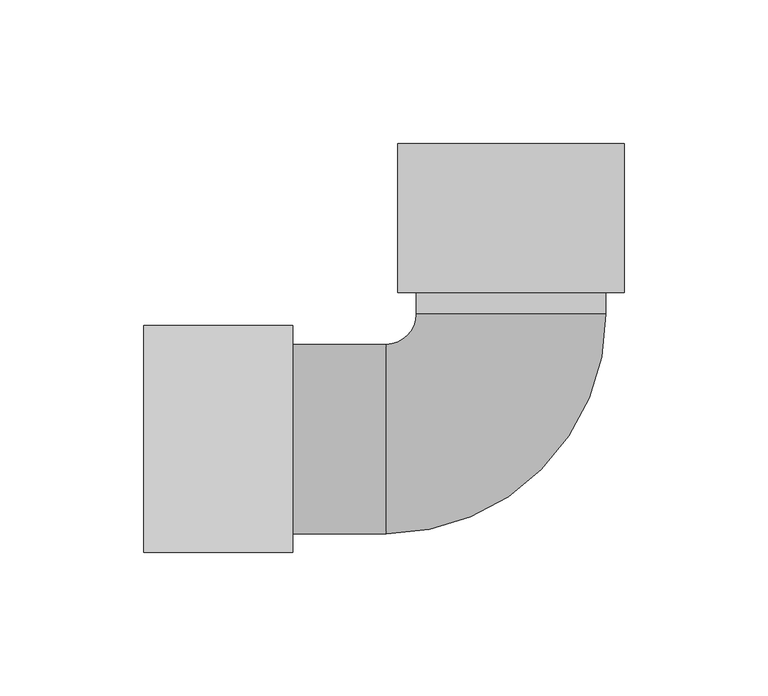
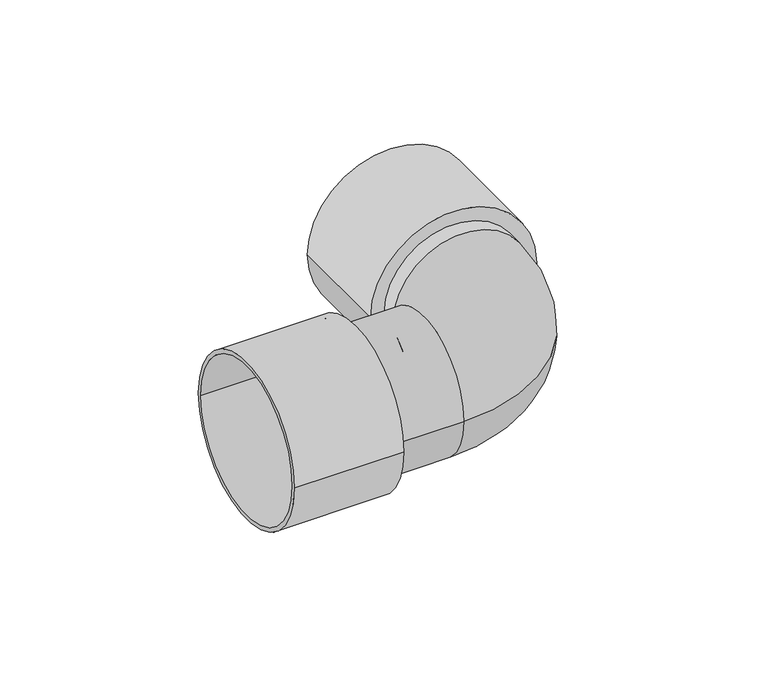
"""IFC4 building model written with IfcOpenShell, lengths in millimetres: duct fitting geometry, NLRS_57_DUF_UN_bend round_M&G : ø75 ø92."""

from ifc_helpers import new_model, si_unit, point, frame, origin, place, context, project, spatial, polyline, circle_curve, ellipse_curve, trimmed, source, transform, mapped, element, save
from ifc_brep_helpers import plane_surface, cylinder_surface, revolved_surface, advanced_brep


def duct_fitting_6423f03c(model_context):
    return source(origin(), model_context, "Body", "AdvancedBrep", [
        advanced_brep(
        [(33.0, 43.5, 0.0), (-43.5, -33.0, 0.0), (-43.5, 33.0, 0.0), (-33.0, 43.5, 0.0), (-76.0, 33.0, 0.0), (-76.0, -33.0, 0.0), (33.0, 51.0, 0.0), (-33.0, 51.0, 0.0), (-76.0, 39.5, 0.0), (-76.0, -39.5, 0.0), (-128.0, 39.5, 0.0), (-128.0, -39.5, 0.0), (-128.0, 37.5, 0.0), (-128.0, -37.5, 0.0), (39.5, 51.0, 0.0), (-39.5, 51.0, 0.0), (39.5, 103.0, 0.0), (-39.5, 103.0, 0.0), (37.5, 103.0, 0.0), (-37.5, 103.0, 0.0), (-78.0, -37.5, 0.0), (-78.0, 37.5, 0.0), (37.5, 53.0, 0.0), (-37.5, 53.0, 0.0)],
        [
            (0, 1, circle_curve(frame((-43.5, 43.5, 0.0), z_axis=(0.0, 0.0, -1.0), x_axis=(0.0, -1.0, 0.0)), 76.5)),
            (1, 2, circle_curve(frame((-43.5, 0.0, 0.0), z_axis=(1.0, 0.0, 0.0), x_axis=(0.0, 1.0, 0.0)), 33.0)),
            (2, 3, circle_curve(frame((-43.5, 43.5, 0.0), z_axis=(0.0, 0.0, 1.0), x_axis=(0.0, -1.0, 0.0)), 10.5)),
            (3, 0, circle_curve(frame((0.0, 43.5, 0.0), z_axis=(1.7352785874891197e-12, -1.0, 0.0), x_axis=(-1.0, -1.7352785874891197e-12, 0.0)), 33.0)),
            (0, 3, circle_curve(frame((0.0, 43.5, 0.0), z_axis=(1.7359447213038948e-12, -1.0, 0.0), x_axis=(-1.0, -1.7359447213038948e-12, 0.0)), 33.0)),
            (2, 1, circle_curve(frame((-43.5, 0.0, 0.0), z_axis=(1.0, 0.0, 0.0), x_axis=(0.0, 1.0, 0.0)), 33.0)),
            (2, 4),
            (4, 5, circle_curve(frame((-76.0, 0.0, 0.0), z_axis=(1.0, 0.0, 0.0), x_axis=(0.0, 1.0, 0.0)), 33.0)),
            (5, 1),
            (5, 4, circle_curve(frame((-76.0, 0.0, 0.0), z_axis=(1.0, 0.0, 0.0), x_axis=(0.0, 1.0, 0.0)), 33.0)),
            (0, 6),
            (6, 7, circle_curve(frame((0.0, 51.0, 0.0), z_axis=(0.0, -1.0, 0.0), x_axis=(-1.0, 0.0, 0.0)), 33.0)),
            (7, 3),
            (7, 6, circle_curve(frame((0.0, 51.0, 0.0), z_axis=(0.0, -1.0, 0.0), x_axis=(-1.0, 0.0, 0.0)), 33.0)),
            (8, 9, circle_curve(frame((-76.0, 0.0, 0.0), z_axis=(1.0, 0.0, 0.0), x_axis=(0.0, -1.0, 0.0)), 39.5)),
            (9, 8, circle_curve(frame((-76.0, 0.0, 0.0), z_axis=(1.0, 0.0, 0.0), x_axis=(0.0, -1.0, 0.0)), 39.5)),
            (10, 11, circle_curve(frame((-128.0, 0.0, 0.0), z_axis=(-1.0, 0.0, 0.0), x_axis=(0.0, -1.0, 0.0)), 39.5)),
            (11, 10, circle_curve(frame((-128.0, 0.0, 0.0), z_axis=(-1.0, 0.0, 0.0), x_axis=(0.0, -1.0, 0.0)), 39.5)),
            (12, 13, circle_curve(frame((-128.0, 0.0, 0.0), z_axis=(1.0, 0.0, 0.0), x_axis=(0.0, 1.0, 0.0)), 37.5)),
            (13, 12, circle_curve(frame((-128.0, 0.0, 0.0), z_axis=(1.0, 0.0, 0.0), x_axis=(0.0, 1.0, 0.0)), 37.5)),
            (8, 10),
            (11, 9),
            (14, 15, circle_curve(frame((0.0, 51.0, 0.0), z_axis=(0.0, -1.0, 0.0), x_axis=(-1.0, 0.0, 0.0)), 39.5)),
            (15, 14, circle_curve(frame((0.0, 51.0, 0.0), z_axis=(0.0, -1.0, 0.0), x_axis=(-1.0, 0.0, 0.0)), 39.5)),
            (16, 17, circle_curve(frame((0.0, 103.0, 0.0), z_axis=(0.0, 1.0, 0.0), x_axis=(-1.0, 0.0, 0.0)), 39.5)),
            (17, 16, circle_curve(frame((0.0, 103.0, 0.0), z_axis=(0.0, 1.0, 0.0), x_axis=(-1.0, 0.0, 0.0)), 39.5)),
            (18, 19, circle_curve(frame((0.0, 103.0, 0.0), z_axis=(0.0, -1.0, 0.0), x_axis=(-1.0, 0.0, 0.0)), 37.5)),
            (19, 18, circle_curve(frame((0.0, 103.0, 0.0), z_axis=(0.0, -1.0, 0.0), x_axis=(-1.0, 0.0, 0.0)), 37.5)),
            (14, 16),
            (17, 15),
            (20, 21, circle_curve(frame((-78.0, 0.0, 0.0), z_axis=(-1.0, 0.0, 0.0), x_axis=(0.0, 1.0, 0.0)), 37.5)),
            (21, 20, circle_curve(frame((-78.0, 0.0, 0.0), z_axis=(-1.0, 0.0, 0.0), x_axis=(0.0, 1.0, 0.0)), 37.5)),
            (20, 13),
            (12, 21),
            (22, 23, circle_curve(frame((0.0, 53.0, 0.0), z_axis=(0.0, 1.0, 0.0), x_axis=(-1.0, 0.0, 0.0)), 37.5)),
            (23, 22, circle_curve(frame((0.0, 53.0, 0.0), z_axis=(0.0, 1.0, 0.0), x_axis=(-1.0, 0.0, 0.0)), 37.5)),
            (23, 19),
            (18, 22),
        ],
        [
            revolved_surface(trimmed(ellipse_curve(frame((-43.5, 0.0, 0.0), z_axis=(-1.0, 0.0, 0.0), x_axis=(0.0, 1.0, 0.0)), 33.0, 33.0), [point((-43.5, 33.0, 0.0))], [point((-43.5, -33.0, 0.0))], True, "CARTESIAN"), (-43.5, 43.5, 0.0), (0.0, 0.0, 1.0)),
            revolved_surface(trimmed(ellipse_curve(frame((-43.5, 0.0, 0.0), z_axis=(-1.0, 0.0, 0.0), x_axis=(0.0, 1.0, 0.0)), 33.0, 33.0), [point((-43.5, -33.0, 0.0))], [point((-43.5, 33.0, 0.0))], True, "CARTESIAN"), (-43.5, 43.5, 0.0), (0.0, 0.0, 1.0)),
            cylinder_surface(frame((-76.0, 0.0, 0.0), z_axis=(-1.0, 0.0, 0.0), x_axis=(0.0, 1.0, 0.0)), 33.0),
            cylinder_surface(frame((0.0, 43.5, 0.0), z_axis=(0.0, -1.0, 0.0), x_axis=(-1.0, 0.0, 0.0)), 33.0),
            plane_surface(frame((-76.0, 0.0, 0.0), z_axis=(1.0, 0.0, 0.0), x_axis=(0.0, 0.0, 1.0))),
            plane_surface(frame((-128.0, 0.0, 0.0), z_axis=(-1.0, 0.0, 0.0), x_axis=(0.0, 0.0, 1.0))),
            cylinder_surface(frame((-76.0, 0.0, 0.0), z_axis=(1.0, 0.0, 0.0), x_axis=(0.0, -1.0, 0.0)), 39.5),
            plane_surface(frame((0.0, 51.0, 0.0), z_axis=(0.0, -1.0, 0.0), x_axis=(0.0, 0.0, 1.0))),
            plane_surface(frame((0.0, 103.0, 0.0), z_axis=(0.0, 1.0, 0.0), x_axis=(0.0, 0.0, 1.0))),
            cylinder_surface(frame((0.0, 51.0, 0.0), z_axis=(0.0, -1.0, 0.0), x_axis=(-1.0, 0.0, 0.0)), 39.5),
            plane_surface(frame((-78.0, 0.0, 0.0), z_axis=(-1.0, 0.0, 0.0), x_axis=(0.0, 0.0, 1.0))),
            revolved_surface(polyline([(-128.0, 37.5, 0.0), (-78.0, 37.5, 0.0)]), (-128.0, 0.0, 0.0), (-1.0, 0.0, 0.0)),
            plane_surface(frame((0.0, 53.0, 0.0), z_axis=(0.0, 1.0, 0.0), x_axis=(0.0, 0.0, 1.0))),
            revolved_surface(polyline([(-37.5, 53.0, 0.0), (-37.5, 103.0, 0.0)]), (0.0, 53.0, 0.0), (0.0, -1.0, 0.0)),
        ],
        [
            (0, [[1, 2, 3, 4]]),
            (1, [[-1, 5, -3, 6]]),
            (2, [[-6, 7, 8, 9]]),
            (2, [[-2, -9, 10, -7]]),
            (3, [[-5, 11, 12, 13]]),
            (3, [[-4, -13, 14, -11]]),
            (4, [[15, 16], [-8, -10]]),
            (5, [[17, 18], [19, 20]]),
            (6, [[-15, 21, -18, 22]]),
            (6, [[-16, -22, -17, -21]]),
            (7, [[23, 24], [-12, -14]]),
            (8, [[25, 26], [27, 28]]),
            (9, [[-23, 29, -26, 30]]),
            (9, [[-24, -30, -25, -29]]),
            (10, [[31, 32]]),
            (11, [[-31, 33, -19, 34]]),
            (11, [[-32, -34, -20, -33]]),
            (12, [[35, 36]]),
            (13, [[-36, 37, -27, 38]]),
            (13, [[-35, -38, -28, -37]]),
        ],
    ),
    ])


if __name__ == "__main__":
    model = new_model("IFC4")
    model_context = context("Model", 3, world=origin())
    ifc_project = project(units=[si_unit("LENGTHUNIT", "METRE", prefix="MILLI")], contexts=[model_context])
    site = spatial("IfcSite", under=ifc_project)
    building = spatial("IfcBuilding", under=site)
    placement = place(None, origin())
    duct_fitting_shape = duct_fitting_6423f03c(model_context)
    element("IfcDuctFitting", 1, ObjectType="NLRS_57_DUF_UN_bend round_M&G : ø75 ø92", at=placement, inside=building, context=model_context, shape_type="MappedRepresentation", body=[
        mapped(duct_fitting_shape, transform((0.0, 0.0, 0.0), x_axis=(1.0, 0.0, 0.0), y_axis=(0.0, 1.0, 0.0), z_axis=(0.0, 0.0, 1.0))),
    ])
    save(model, "model.ifc")
